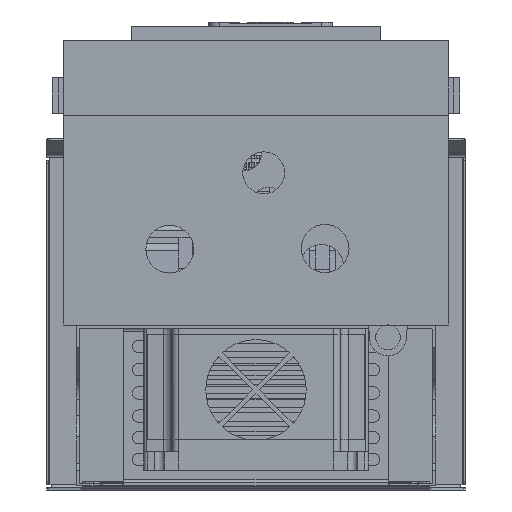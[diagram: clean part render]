
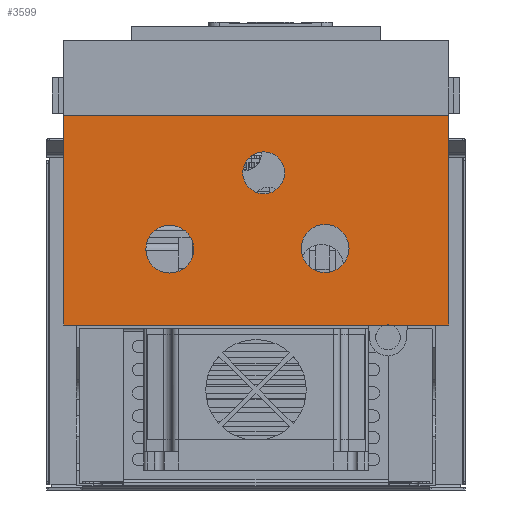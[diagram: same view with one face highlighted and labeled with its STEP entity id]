
A CAD part, front view. The second image highlights one B-rep face of the part: STEP entity #3599.
In plain terms, the highlighted planar face has unit normal (0, -1, 0).
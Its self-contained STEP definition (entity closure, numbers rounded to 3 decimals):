
#104=DIRECTION('',(1.,0.,0.));
#105=VECTOR('',#104,209.419);
#106=CARTESIAN_POINT('',(-124.52,-202.39,0.));
#107=LINE('',#106,#105);
#167=DIRECTION('',(1.,0.,0.));
#168=VECTOR('',#167,249.26);
#169=CARTESIAN_POINT('',(-124.52,-202.39,135.81));
#170=LINE('',#169,#168);
#171=CARTESIAN_POINT('',(85.394,-202.39,-7.985));
#172=DIRECTION('',(0.,-1.,0.));
#173=DIRECTION('',(0.062,0.,0.998));
#174=AXIS2_PLACEMENT_3D('',#171,#172,#173);
#176=DIRECTION('',(0.,0.,1.));
#177=VECTOR('',#176,135.81);
#178=CARTESIAN_POINT('',(-124.52,-202.39,0.));
#179=LINE('',#178,#177);
#180=CARTESIAN_POINT('',(44.71,-202.39,49.55));
#181=DIRECTION('',(0.,-1.,0.));
#182=DIRECTION('',(1.,0.,0.));
#183=AXIS2_PLACEMENT_3D('',#180,#181,#182);
#185=CARTESIAN_POINT('',(44.71,-202.39,49.55));
#186=DIRECTION('',(0.,-1.,0.));
#187=DIRECTION('',(-1.,0.,0.));
#188=AXIS2_PLACEMENT_3D('',#185,#186,#187);
#190=CARTESIAN_POINT('',(5.,-202.39,98.5));
#191=DIRECTION('',(0.,-1.,0.));
#192=DIRECTION('',(1.,0.,0.));
#193=AXIS2_PLACEMENT_3D('',#190,#191,#192);
#195=CARTESIAN_POINT('',(5.,-202.39,98.5));
#196=DIRECTION('',(0.,-1.,0.));
#197=DIRECTION('',(-1.,0.,0.));
#198=AXIS2_PLACEMENT_3D('',#195,#196,#197);
#200=CARTESIAN_POINT('',(-55.81,-202.39,49.1));
#201=DIRECTION('',(0.,-1.,0.));
#202=DIRECTION('',(1.,0.,0.));
#203=AXIS2_PLACEMENT_3D('',#200,#201,#202);
#205=CARTESIAN_POINT('',(-55.81,-202.39,49.1));
#206=DIRECTION('',(0.,-1.,0.));
#207=DIRECTION('',(-1.,0.,0.));
#208=AXIS2_PLACEMENT_3D('',#205,#206,#207);
#222=DIRECTION('',(0.,0.,1.));
#223=VECTOR('',#222,135.81);
#224=CARTESIAN_POINT('',(124.74,-202.39,0.));
#225=LINE('',#224,#223);
#711=DIRECTION('',(1.,0.,0.));
#712=VECTOR('',#711,38.851);
#713=CARTESIAN_POINT('',(85.889,-202.39,0.));
#714=LINE('',#713,#712);
#2647=CARTESIAN_POINT('',(-124.52,-202.39,0.));
#2648=VERTEX_POINT('',#2647);
#2649=CARTESIAN_POINT('',(84.899,-202.39,0.));
#2650=VERTEX_POINT('',#2649);
#2667=CARTESIAN_POINT('',(85.889,-202.39,0.));
#2668=VERTEX_POINT('',#2667);
#2669=CARTESIAN_POINT('',(-124.52,-202.39,135.81));
#2670=CARTESIAN_POINT('',(124.74,-202.39,135.81));
#2671=VERTEX_POINT('',#2669);
#2672=VERTEX_POINT('',#2670);
#2673=CARTESIAN_POINT('',(124.74,-202.39,0.));
#2674=VERTEX_POINT('',#2673);
#2675=CARTESIAN_POINT('',(60.205,-202.39,49.55));
#2676=CARTESIAN_POINT('',(29.215,-202.39,49.55));
#2677=VERTEX_POINT('',#2675);
#2678=VERTEX_POINT('',#2676);
#2679=CARTESIAN_POINT('',(18.575,-202.39,98.5));
#2680=CARTESIAN_POINT('',(-8.575,-202.39,98.5));
#2681=VERTEX_POINT('',#2679);
#2682=VERTEX_POINT('',#2680);
#2683=CARTESIAN_POINT('',(-40.315,-202.39,49.1));
#2684=CARTESIAN_POINT('',(-71.305,-202.39,49.1));
#2685=VERTEX_POINT('',#2683);
#2686=VERTEX_POINT('',#2684);
#3564=CARTESIAN_POINT('',(-124.52,-202.39,0.));
#3565=DIRECTION('',(0.,-1.,0.));
#3566=DIRECTION('',(1.,0.,0.));
#3567=AXIS2_PLACEMENT_3D('',#3564,#3565,#3566);
#3568=PLANE('',#3567);
#3570=ORIENTED_EDGE('',*,*,#3569,.T.);
#3572=ORIENTED_EDGE('',*,*,#3571,.F.);
#3574=ORIENTED_EDGE('',*,*,#3573,.F.);
#3575=ORIENTED_EDGE('',*,*,#3534,.T.);
#3576=ORIENTED_EDGE('',*,*,#3489,.F.);
#3578=ORIENTED_EDGE('',*,*,#3577,.T.);
#3579=EDGE_LOOP('',(#3570,#3572,#3574,#3575,#3576,#3578));
#3580=FACE_OUTER_BOUND('',#3579,.F.);
#3582=ORIENTED_EDGE('',*,*,#3581,.T.);
#3584=ORIENTED_EDGE('',*,*,#3583,.T.);
#3585=EDGE_LOOP('',(#3582,#3584));
#3586=FACE_BOUND('',#3585,.F.);
#3588=ORIENTED_EDGE('',*,*,#3587,.T.);
#3590=ORIENTED_EDGE('',*,*,#3589,.T.);
#3591=EDGE_LOOP('',(#3588,#3590));
#3592=FACE_BOUND('',#3591,.F.);
#3594=ORIENTED_EDGE('',*,*,#3593,.T.);
#3596=ORIENTED_EDGE('',*,*,#3595,.T.);
#3597=EDGE_LOOP('',(#3594,#3596));
#3598=FACE_BOUND('',#3597,.F.);
#3599=ADVANCED_FACE('',(#3580,#3586,#3592,#3598),#3568,.T.);
#175=CIRCLE('',#174,8.);
#184=CIRCLE('',#183,15.495);
#189=CIRCLE('',#188,15.495);
#194=CIRCLE('',#193,13.575);
#199=CIRCLE('',#198,13.575);
#204=CIRCLE('',#203,15.495);
#209=CIRCLE('',#208,15.495);
#3489=EDGE_CURVE('',#2648,#2650,#107,.T.);
#3534=EDGE_CURVE('',#2668,#2650,#175,.T.);
#3569=EDGE_CURVE('',#2671,#2672,#170,.T.);
#3571=EDGE_CURVE('',#2674,#2672,#225,.T.);
#3573=EDGE_CURVE('',#2668,#2674,#714,.T.);
#3577=EDGE_CURVE('',#2648,#2671,#179,.T.);
#3581=EDGE_CURVE('',#2677,#2678,#184,.T.);
#3583=EDGE_CURVE('',#2678,#2677,#189,.T.);
#3587=EDGE_CURVE('',#2681,#2682,#194,.T.);
#3589=EDGE_CURVE('',#2682,#2681,#199,.T.);
#3593=EDGE_CURVE('',#2685,#2686,#204,.T.);
#3595=EDGE_CURVE('',#2686,#2685,#209,.T.);
